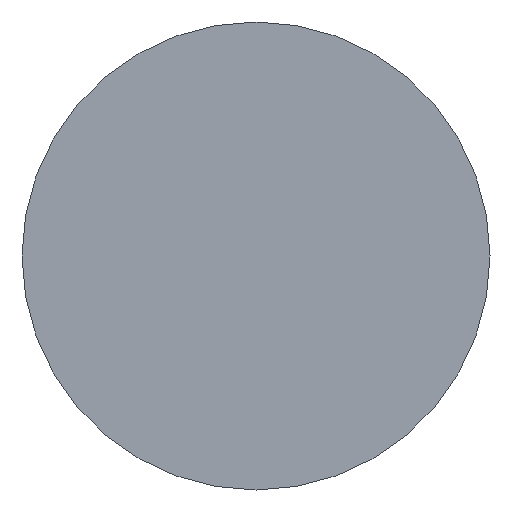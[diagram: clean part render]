
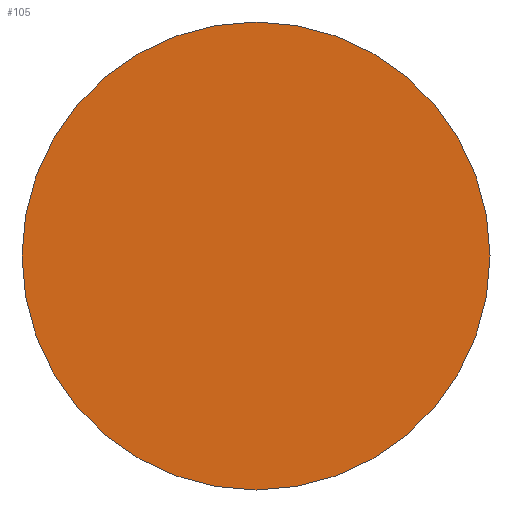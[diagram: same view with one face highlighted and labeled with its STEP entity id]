
A CAD part, left-side view. The second image highlights one B-rep face of the part: STEP entity #105.
In plain terms, the highlighted planar face has unit normal (-1, 0, 0).
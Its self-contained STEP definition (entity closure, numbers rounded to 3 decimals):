
#22 = VERTEX_POINT('',#23);
#23 = CARTESIAN_POINT('',(-36.5,7.2,0.));
#32 = CYLINDRICAL_SURFACE('',#33,7.2);
#33 = AXIS2_PLACEMENT_3D('',#34,#35,#36);
#34 = CARTESIAN_POINT('',(-36.5,0.,0.));
#35 = DIRECTION('',(-1.,-0.,-0.));
#36 = DIRECTION('',(0.,1.,0.));
#79 = EDGE_CURVE('',#22,#22,#80,.T.);
#80 = SURFACE_CURVE('',#81,(#86,#93),.PCURVE_S1.);
#81 = CIRCLE('',#82,7.2);
#82 = AXIS2_PLACEMENT_3D('',#83,#84,#85);
#83 = CARTESIAN_POINT('',(-36.5,0.,0.));
#84 = DIRECTION('',(1.,0.,0.));
#85 = DIRECTION('',(0.,1.,0.));
#86 = PCURVE('',#32,#87);
#87 = DEFINITIONAL_REPRESENTATION('',(#88),#92);
#88 = LINE('',#89,#90);
#89 = CARTESIAN_POINT('',(-0.,0.));
#90 = VECTOR('',#91,1.);
#91 = DIRECTION('',(-1.,0.));
#92 = ( GEOMETRIC_REPRESENTATION_CONTEXT(2) 
PARAMETRIC_REPRESENTATION_CONTEXT() REPRESENTATION_CONTEXT('2D SPACE',''
  ) );
#93 = PCURVE('',#94,#99);
#94 = PLANE('',#95);
#95 = AXIS2_PLACEMENT_3D('',#96,#97,#98);
#96 = CARTESIAN_POINT('',(-36.5,0.,0.)
  );
#97 = DIRECTION('',(1.,0.,0.));
#98 = DIRECTION('',(-0.,0.,1.));
#99 = DEFINITIONAL_REPRESENTATION('',(#100),#104);
#100 = CIRCLE('',#101,7.2);
#101 = AXIS2_PLACEMENT_2D('',#102,#103);
#102 = CARTESIAN_POINT('',(0.,0.));
#103 = DIRECTION('',(0.,-1.));
#104 = ( GEOMETRIC_REPRESENTATION_CONTEXT(2) 
PARAMETRIC_REPRESENTATION_CONTEXT() REPRESENTATION_CONTEXT('2D SPACE',''
  ) );
#105 = ADVANCED_FACE('',(#106),#94,.F.);
#106 = FACE_BOUND('',#107,.F.);
#107 = EDGE_LOOP('',(#108));
#108 = ORIENTED_EDGE('',*,*,#79,.T.);
